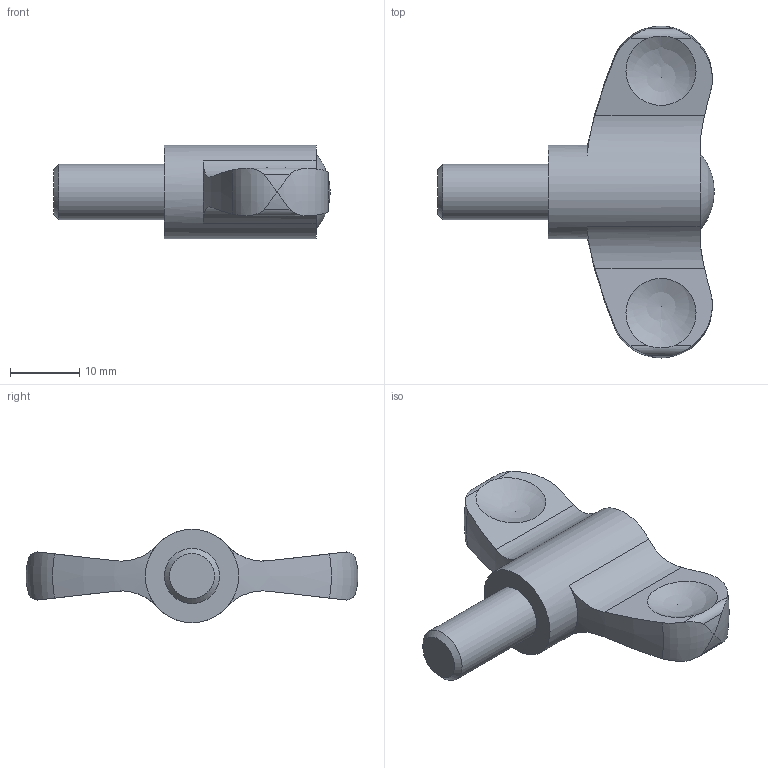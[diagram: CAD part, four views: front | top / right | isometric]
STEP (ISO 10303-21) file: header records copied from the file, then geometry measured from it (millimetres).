
FILE_DESCRIPTION( ( 'STEP AP203' ), '1' );
FILE_NAME( 'C:/Temp/Ganter_Step_05_03_2020/data/2_2/gn_633/Wing nut GN 633-48-M8-16-DSG.stp', '2020-03-05T12:20:44', ( 'License CC BY-ND 4.0' ), ( 'CADENAS' ), ' ', 'PARTsolutions', ' ' );
FILE_SCHEMA( ( 'CONFIG_CONTROL_DESIGN' ) );
Length unit declared in the file: millimetre
Products named in the file (1): _Wing nut GN 633-48-M8-16-DSG
Bounding box: 40 x 48 x 13.5 mm (x, y, z)
Volume: 6490.8 mm3; surface area: 2938.5 mm2
Topology: 1 solids, 1 shells, 33 faces, 102 edges, 68 vertices
Faces by surface type: cylinder 14, sphere 7, plane 7, bspline 2, torus 2, cone 1
Full cylindrical faces by diameter (mm): 8 x1, 13.5 x1
Entity records: 1450 total; most frequent: CARTESIAN_POINT 638, ORIENTED_EDGE 166, DIRECTION 138, EDGE_CURVE 83, VERTEX_POINT 63, AXIS2_PLACEMENT_3D 59, EDGE_LOOP 38, B_SPLINE_CURVE_WITH_KNOTS 36
